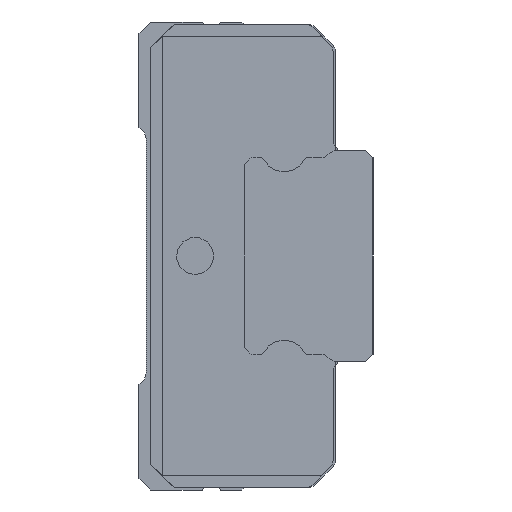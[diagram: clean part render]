
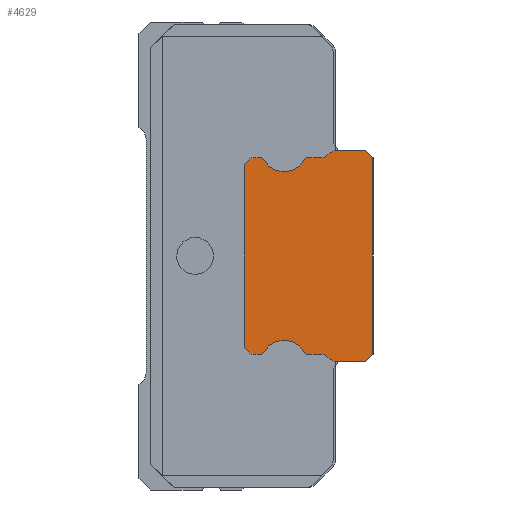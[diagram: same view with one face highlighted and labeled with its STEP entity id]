
A CAD part, left-side view. The second image highlights one B-rep face of the part: STEP entity #4629.
In plain terms, the highlighted planar face has unit normal (-1, 0, 0).
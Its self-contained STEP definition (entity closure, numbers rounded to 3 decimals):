
#55=PLANE('',#5081);
#196=LINE('',#7047,#494);
#199=LINE('',#7053,#497);
#202=LINE('',#7159,#500);
#205=LINE('',#7165,#503);
#208=LINE('',#7171,#506);
#212=LINE('',#7183,#510);
#216=LINE('',#7195,#514);
#222=LINE('',#7219,#520);
#226=LINE('',#7231,#524);
#229=LINE('',#7337,#527);
#232=LINE('',#7343,#530);
#236=LINE('',#7355,#534);
#242=LINE('',#7379,#540);
#246=LINE('',#7391,#544);
#494=VECTOR('',#5544,1000.);
#497=VECTOR('',#5549,1000.);
#500=VECTOR('',#5654,1000.);
#503=VECTOR('',#5659,1000.);
#506=VECTOR('',#5664,1000.);
#510=VECTOR('',#5676,1000.);
#514=VECTOR('',#5688,1000.);
#520=VECTOR('',#5714,1000.);
#524=VECTOR('',#5726,1000.);
#527=VECTOR('',#5831,1000.);
#530=VECTOR('',#5836,1000.);
#534=VECTOR('',#5848,1000.);
#540=VECTOR('',#5874,1000.);
#544=VECTOR('',#5886,1000.);
#1020=ORIENTED_EDGE('',*,*,#1982,.F.);
#1021=ORIENTED_EDGE('',*,*,#2158,.F.);
#1022=ORIENTED_EDGE('',*,*,#2155,.T.);
#1023=ORIENTED_EDGE('',*,*,#2152,.F.);
#1024=ORIENTED_EDGE('',*,*,#2149,.F.);
#1025=ORIENTED_EDGE('',*,*,#2146,.T.);
#1026=ORIENTED_EDGE('',*,*,#2143,.F.);
#1027=ORIENTED_EDGE('',*,*,#2140,.F.);
#1028=ORIENTED_EDGE('',*,*,#2137,.F.);
#1029=ORIENTED_EDGE('',*,*,#2134,.F.);
#1030=ORIENTED_EDGE('',*,*,#2131,.F.);
#1031=ORIENTED_EDGE('',*,*,#2078,.F.);
#1032=ORIENTED_EDGE('',*,*,#2075,.F.);
#1033=ORIENTED_EDGE('',*,*,#2072,.F.);
#1034=ORIENTED_EDGE('',*,*,#2069,.F.);
#1035=ORIENTED_EDGE('',*,*,#2066,.T.);
#1036=ORIENTED_EDGE('',*,*,#2063,.F.);
#1037=ORIENTED_EDGE('',*,*,#2060,.F.);
#1038=ORIENTED_EDGE('',*,*,#2057,.T.);
#1039=ORIENTED_EDGE('',*,*,#2054,.F.);
#1040=ORIENTED_EDGE('',*,*,#2051,.F.);
#1041=ORIENTED_EDGE('',*,*,#2048,.F.);
#1042=ORIENTED_EDGE('',*,*,#2045,.F.);
#1043=ORIENTED_EDGE('',*,*,#2042,.F.);
#1044=ORIENTED_EDGE('',*,*,#1989,.F.);
#1045=ORIENTED_EDGE('',*,*,#1986,.F.);
#1982=EDGE_CURVE('',#2578,#2579,#3038,.T.);
#1986=EDGE_CURVE('',#2579,#2582,#196,.T.);
#1989=EDGE_CURVE('',#2582,#2584,#199,.T.);
#2042=EDGE_CURVE('',#2584,#2636,#202,.T.);
#2045=EDGE_CURVE('',#2636,#2638,#205,.T.);
#2048=EDGE_CURVE('',#2638,#2640,#208,.T.);
#2051=EDGE_CURVE('',#2640,#2642,#3090,.T.);
#2054=EDGE_CURVE('',#2642,#2644,#212,.T.);
#2057=EDGE_CURVE('',#2646,#2644,#3092,.T.);
#2060=EDGE_CURVE('',#2646,#2648,#216,.T.);
#2063=EDGE_CURVE('',#2648,#2650,#3094,.T.);
#2066=EDGE_CURVE('',#2652,#2650,#3096,.T.);
#2069=EDGE_CURVE('',#2652,#2654,#3098,.T.);
#2072=EDGE_CURVE('',#2654,#2656,#222,.T.);
#2075=EDGE_CURVE('',#2656,#2658,#3100,.T.);
#2078=EDGE_CURVE('',#2658,#2660,#226,.T.);
#2131=EDGE_CURVE('',#2660,#2712,#229,.T.);
#2134=EDGE_CURVE('',#2712,#2714,#232,.T.);
#2137=EDGE_CURVE('',#2714,#2716,#3152,.T.);
#2140=EDGE_CURVE('',#2716,#2718,#236,.T.);
#2143=EDGE_CURVE('',#2718,#2720,#3154,.T.);
#2146=EDGE_CURVE('',#2722,#2720,#3156,.T.);
#2149=EDGE_CURVE('',#2722,#2724,#3158,.T.);
#2152=EDGE_CURVE('',#2724,#2726,#242,.T.);
#2155=EDGE_CURVE('',#2728,#2726,#3160,.T.);
#2158=EDGE_CURVE('',#2728,#2578,#246,.T.);
#2578=VERTEX_POINT('',#7039);
#2579=VERTEX_POINT('',#7040);
#2582=VERTEX_POINT('',#7048);
#2584=VERTEX_POINT('',#7054);
#2636=VERTEX_POINT('',#7160);
#2638=VERTEX_POINT('',#7166);
#2640=VERTEX_POINT('',#7172);
#2642=VERTEX_POINT('',#7178);
#2644=VERTEX_POINT('',#7184);
#2646=VERTEX_POINT('',#7190);
#2648=VERTEX_POINT('',#7196);
#2650=VERTEX_POINT('',#7202);
#2652=VERTEX_POINT('',#7208);
#2654=VERTEX_POINT('',#7214);
#2656=VERTEX_POINT('',#7220);
#2658=VERTEX_POINT('',#7226);
#2660=VERTEX_POINT('',#7232);
#2712=VERTEX_POINT('',#7338);
#2714=VERTEX_POINT('',#7344);
#2716=VERTEX_POINT('',#7350);
#2718=VERTEX_POINT('',#7356);
#2720=VERTEX_POINT('',#7362);
#2722=VERTEX_POINT('',#7368);
#2724=VERTEX_POINT('',#7374);
#2726=VERTEX_POINT('',#7380);
#2728=VERTEX_POINT('',#7386);
#3038=CIRCLE('',#4931,0.3);
#3090=CIRCLE('',#4989,0.3);
#3092=CIRCLE('',#4993,0.3);
#3094=CIRCLE('',#4997,0.15);
#3096=CIRCLE('',#5000,1.);
#3098=CIRCLE('',#5003,0.15);
#3100=CIRCLE('',#5007,0.3);
#3152=CIRCLE('',#5063,0.3);
#3154=CIRCLE('',#5067,0.15);
#3156=CIRCLE('',#5070,1.);
#3158=CIRCLE('',#5073,0.15);
#3160=CIRCLE('',#5077,0.3);
#3459=EDGE_LOOP('',(#1020,#1021,#1022,#1023,#1024,#1025,#1026,#1027,#1028,
#1029,#1030,#1031,#1032,#1033,#1034,#1035,#1036,#1037,#1038,#1039,#1040,
#1041,#1042,#1043,#1044,#1045));
#4021=FACE_BOUND('',#3459,.T.);
#4629=ADVANCED_FACE('',(#4021),#55,.F.);
#4931=AXIS2_PLACEMENT_3D('',#7038,#5536,#5537);
#4989=AXIS2_PLACEMENT_3D('',#7177,#5669,#5670);
#4993=AXIS2_PLACEMENT_3D('',#7189,#5681,#5682);
#4997=AXIS2_PLACEMENT_3D('',#7201,#5693,#5694);
#5000=AXIS2_PLACEMENT_3D('',#7207,#5700,#5701);
#5003=AXIS2_PLACEMENT_3D('',#7213,#5707,#5708);
#5007=AXIS2_PLACEMENT_3D('',#7225,#5719,#5720);
#5063=AXIS2_PLACEMENT_3D('',#7349,#5841,#5842);
#5067=AXIS2_PLACEMENT_3D('',#7361,#5853,#5854);
#5070=AXIS2_PLACEMENT_3D('',#7367,#5860,#5861);
#5073=AXIS2_PLACEMENT_3D('',#7373,#5867,#5868);
#5077=AXIS2_PLACEMENT_3D('',#7385,#5879,#5880);
#5081=AXIS2_PLACEMENT_3D('',#7394,#5890,#5891);
#5536=DIRECTION('',(1.,0.,0.));
#5537=DIRECTION('',(0.,0.,-1.));
#5544=DIRECTION('',(0.,-1.,0.));
#5549=DIRECTION('',(0.,-0.707,-0.707));
#5654=DIRECTION('',(0.,0.,-1.));
#5659=DIRECTION('',(0.,0.707,-0.707));
#5664=DIRECTION('',(0.,1.,0.));
#5669=DIRECTION('',(1.,0.,0.));
#5670=DIRECTION('',(0.,0.,-1.));
#5676=DIRECTION('',(0.,0.8,0.6));
#5681=DIRECTION('',(1.,0.,0.));
#5682=DIRECTION('',(0.,0.,-1.));
#5688=DIRECTION('',(0.,1.,0.));
#5693=DIRECTION('',(1.,0.,0.));
#5694=DIRECTION('',(0.,0.,-1.));
#5700=DIRECTION('',(1.,0.,0.));
#5701=DIRECTION('',(0.,0.,-1.));
#5707=DIRECTION('',(1.,0.,0.));
#5708=DIRECTION('',(0.,0.,-1.));
#5714=DIRECTION('',(0.,1.,0.));
#5719=DIRECTION('',(1.,0.,0.));
#5720=DIRECTION('',(0.,0.,-1.));
#5726=DIRECTION('',(0.,0.661,0.75));
#5831=DIRECTION('',(0.,0.,1.));
#5836=DIRECTION('',(0.,-0.661,0.75));
#5841=DIRECTION('',(1.,0.,0.));
#5842=DIRECTION('',(0.,0.,-1.));
#5848=DIRECTION('',(0.,-1.,0.));
#5853=DIRECTION('',(1.,0.,0.));
#5854=DIRECTION('',(0.,0.,-1.));
#5860=DIRECTION('',(1.,0.,0.));
#5861=DIRECTION('',(0.,0.,-1.));
#5867=DIRECTION('',(1.,0.,0.));
#5868=DIRECTION('',(0.,0.,-1.));
#5874=DIRECTION('',(0.,-1.,0.));
#5879=DIRECTION('',(1.,0.,0.));
#5880=DIRECTION('',(0.,0.,-1.));
#5886=DIRECTION('',(0.,-0.8,0.6));
#5890=DIRECTION('',(1.,0.,0.));
#5891=DIRECTION('',(0.,0.,-1.));
#7038=CARTESIAN_POINT('',(-10.,1.6,4.2));
#7039=CARTESIAN_POINT('',(-10.,1.78,4.44));
#7040=CARTESIAN_POINT('',(-10.,1.6,4.5));
#7047=CARTESIAN_POINT('',(-10.,1.6,4.5));
#7048=CARTESIAN_POINT('',(-10.,0.3,4.5));
#7053=CARTESIAN_POINT('',(-10.,0.3,4.5));
#7054=CARTESIAN_POINT('',(-10.,0.,4.2));
#7159=CARTESIAN_POINT('',(-10.,0.,4.2));
#7160=CARTESIAN_POINT('',(-10.,0.,-4.2));
#7165=CARTESIAN_POINT('',(-10.,0.,-4.2));
#7166=CARTESIAN_POINT('',(-10.,0.3,-4.5));
#7171=CARTESIAN_POINT('',(-10.,0.3,-4.5));
#7172=CARTESIAN_POINT('',(-10.,1.6,-4.5));
#7177=CARTESIAN_POINT('',(-10.,1.6,-4.2));
#7178=CARTESIAN_POINT('',(-10.,1.78,-4.44));
#7183=CARTESIAN_POINT('',(-10.,1.78,-4.44));
#7184=CARTESIAN_POINT('',(-10.,2.02,-4.26));
#7189=CARTESIAN_POINT('',(-10.,2.2,-4.5));
#7190=CARTESIAN_POINT('',(-10.,2.2,-4.2));
#7195=CARTESIAN_POINT('',(-10.,2.2,-4.2));
#7196=CARTESIAN_POINT('',(-10.,2.79,-4.2));
#7201=CARTESIAN_POINT('',(-10.,2.79,-4.05));
#7202=CARTESIAN_POINT('',(-10.,2.922,-4.122));
#7207=CARTESIAN_POINT('',(-10.,3.8,-4.6));
#7208=CARTESIAN_POINT('',(-10.,4.678,-4.122));
#7213=CARTESIAN_POINT('',(-10.,4.81,-4.05));
#7214=CARTESIAN_POINT('',(-10.,4.81,-4.2));
#7219=CARTESIAN_POINT('',(-10.,4.81,-4.2));
#7220=CARTESIAN_POINT('',(-10.,5.1,-4.2));
#7225=CARTESIAN_POINT('',(-10.,5.1,-3.9));
#7226=CARTESIAN_POINT('',(-10.,5.325,-4.098));
#7231=CARTESIAN_POINT('',(-10.,5.325,-4.098));
#7232=CARTESIAN_POINT('',(-10.,5.5,-3.9));
#7337=CARTESIAN_POINT('',(-10.,5.5,-3.9));
#7338=CARTESIAN_POINT('',(-10.,5.5,3.9));
#7343=CARTESIAN_POINT('',(-10.,5.5,3.9));
#7344=CARTESIAN_POINT('',(-10.,5.325,4.098));
#7349=CARTESIAN_POINT('',(-10.,5.1,3.9));
#7350=CARTESIAN_POINT('',(-10.,5.1,4.2));
#7355=CARTESIAN_POINT('',(-10.,5.1,4.2));
#7356=CARTESIAN_POINT('',(-10.,4.81,4.2));
#7361=CARTESIAN_POINT('',(-10.,4.81,4.05));
#7362=CARTESIAN_POINT('',(-10.,4.678,4.122));
#7367=CARTESIAN_POINT('',(-10.,3.8,4.6));
#7368=CARTESIAN_POINT('',(-10.,2.922,4.122));
#7373=CARTESIAN_POINT('',(-10.,2.79,4.05));
#7374=CARTESIAN_POINT('',(-10.,2.79,4.2));
#7379=CARTESIAN_POINT('',(-10.,2.79,4.2));
#7380=CARTESIAN_POINT('',(-10.,2.2,4.2));
#7385=CARTESIAN_POINT('',(-10.,2.2,4.5));
#7386=CARTESIAN_POINT('',(-10.,2.02,4.26));
#7391=CARTESIAN_POINT('',(-10.,2.02,4.26));
#7394=CARTESIAN_POINT('',(-10.,1.6,4.2));
